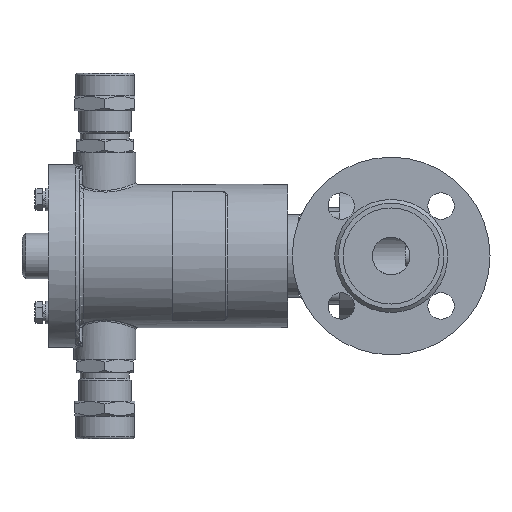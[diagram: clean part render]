
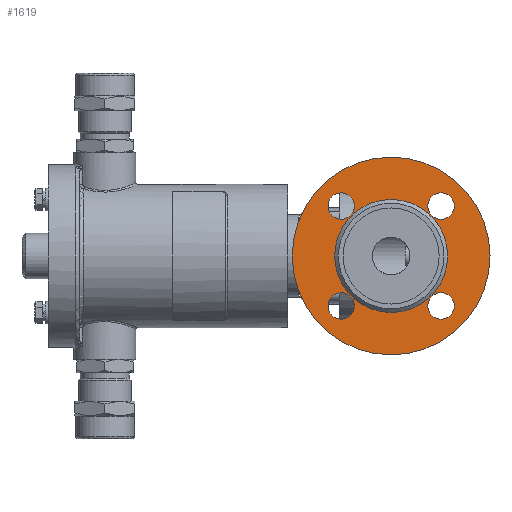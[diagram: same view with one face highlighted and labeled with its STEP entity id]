
A CAD part, left-side view. The second image highlights one B-rep face of the part: STEP entity #1619.
In plain terms, the highlighted planar face has unit normal (-1, 0, 0).
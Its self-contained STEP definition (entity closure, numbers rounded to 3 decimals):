
#1619=ADVANCED_FACE('',(#18214,#18216,#18218,#18220,#18222,#18224),#18226,.T.);
#18214=FACE_BOUND('',#18215,.T.);
#18215=EDGE_LOOP('',(#28401));
#18216=FACE_BOUND('',#18217,.T.);
#18217=EDGE_LOOP('',(#28402));
#18218=FACE_BOUND('',#18219,.T.);
#18219=EDGE_LOOP('',(#28403));
#18220=FACE_BOUND('',#18221,.T.);
#18221=EDGE_LOOP('',(#28404));
#18222=FACE_BOUND('',#18223,.T.);
#18223=EDGE_LOOP('',(#28405));
#18224=FACE_OUTER_BOUND('',#18225,.T.);
#18225=EDGE_LOOP('',(#28406));
#18226=PLANE('',#18227);
#18227=AXIS2_PLACEMENT_3D('',#18228,#18229,#18230);
#18228=CARTESIAN_POINT('',(-63.,0.,0.));
#18229=DIRECTION('',(-1.,-0.,-0.));
#18230=DIRECTION('',(0.,1.,0.));
#28401=ORIENTED_EDGE('',*,*,#37176,.T.);
#28402=ORIENTED_EDGE('',*,*,#37151,.T.);
#28403=ORIENTED_EDGE('',*,*,#37149,.T.);
#28404=ORIENTED_EDGE('',*,*,#37147,.T.);
#28405=ORIENTED_EDGE('',*,*,#37145,.T.);
#28406=ORIENTED_EDGE('',*,*,#37143,.F.);
#37143=EDGE_CURVE('',#44342,#44342,#44344,.T.);
#37145=EDGE_CURVE('',#44345,#44345,#44347,.F.);
#37147=EDGE_CURVE('',#44348,#44348,#44350,.F.);
#37149=EDGE_CURVE('',#44351,#44351,#44353,.F.);
#37151=EDGE_CURVE('',#44354,#44354,#44356,.F.);
#37176=EDGE_CURVE('',#44393,#44393,#44394,.T.);
#44342=VERTEX_POINT('',#68540);
#44344=CIRCLE('',#68544,52.5);
#44345=VERTEX_POINT('',#68548);
#44347=CIRCLE('',#68552,7.);
#44348=VERTEX_POINT('',#68556);
#44350=CIRCLE('',#68560,7.);
#44351=VERTEX_POINT('',#68564);
#44353=CIRCLE('',#68568,7.);
#44354=VERTEX_POINT('',#68572);
#44356=CIRCLE('',#68576,7.);
#44393=VERTEX_POINT('',#68677);
#44394=CIRCLE('',#68678,30.);
#68540=CARTESIAN_POINT('',(-63.,52.5,0.));
#68544=AXIS2_PLACEMENT_3D('',#68545,#68546,#68547);
#68545=CARTESIAN_POINT('',(-63.,0.,0.));
#68546=DIRECTION('',(1.,0.,0.));
#68547=DIRECTION('',(0.,1.,0.));
#68548=CARTESIAN_POINT('',(-63.,-26.517,-33.517));
#68552=AXIS2_PLACEMENT_3D('',#68553,#68554,#68555);
#68553=CARTESIAN_POINT('',(-63.,-26.517,-26.517));
#68554=DIRECTION('',(-1.,-0.,-0.));
#68555=DIRECTION('',(0.,0.,-1.));
#68556=CARTESIAN_POINT('',(-63.,26.517,-33.517));
#68560=AXIS2_PLACEMENT_3D('',#68561,#68562,#68563);
#68561=CARTESIAN_POINT('',(-63.,26.517,-26.517));
#68562=DIRECTION('',(-1.,-0.,-0.));
#68563=DIRECTION('',(0.,0.,-1.));
#68564=CARTESIAN_POINT('',(-63.,26.517,33.517));
#68568=AXIS2_PLACEMENT_3D('',#68569,#68570,#68571);
#68569=CARTESIAN_POINT('',(-63.,26.517,26.517));
#68570=DIRECTION('',(-1.,-0.,-0.));
#68571=DIRECTION('',(0.,0.,1.));
#68572=CARTESIAN_POINT('',(-63.,-26.517,19.517));
#68576=AXIS2_PLACEMENT_3D('',#68577,#68578,#68579);
#68577=CARTESIAN_POINT('',(-63.,-26.517,26.517));
#68578=DIRECTION('',(-1.,-0.,-0.));
#68579=DIRECTION('',(0.,0.,-1.));
#68677=CARTESIAN_POINT('',(-63.,30.,0.));
#68678=AXIS2_PLACEMENT_3D('',#68679,#68680,#68681);
#68679=CARTESIAN_POINT('',(-63.,0.,0.));
#68680=DIRECTION('',(1.,0.,0.));
#68681=DIRECTION('',(0.,1.,0.));
